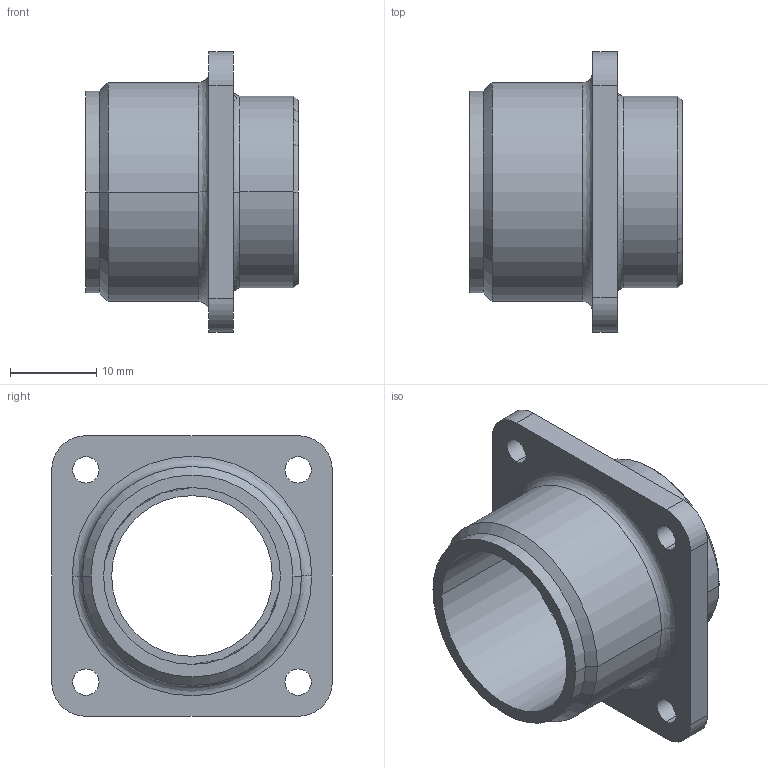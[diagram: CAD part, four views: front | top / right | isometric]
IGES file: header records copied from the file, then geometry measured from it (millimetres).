
Start section:  PTC IGES file: ms3102_16s_shell.igs
Global section: file name: ms3102_16s_shell.igs; native system: Creo Parametric by PTC Inc.; preprocessor: 2016260; author: t-nakamura; organization: Unknown; date: 20180228.104222; units: inch
Bounding box: 24.61 x 32.54 x 32.54 mm (x, y, z)
Surface area: 5002.8 mm2 (no closed solid volume)
Topology: 0 solids, 0 shells, 39 faces, 192 edges, 192 vertices
Faces by surface type: revolution 30, bspline 9
